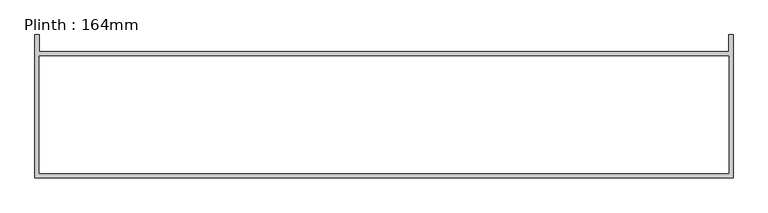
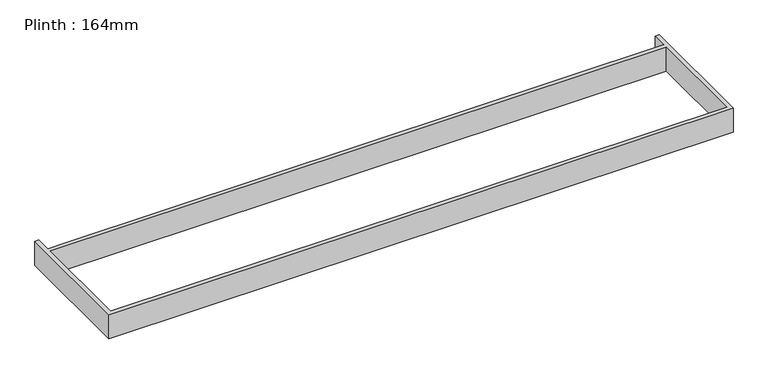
"""IFC4 building model written with IfcOpenShell, lengths in millimetres: furniture geometry, Plinth : 164mm."""

from ifc_helpers import new_model, si_unit, origin, origin_with_axes, place, context, project, spatial, polyline, outline, extrude, source, transform, mapped, element, save


def plinth_164mm_2a3f33c6(model_context):
    return source(origin(), model_context, "Body", "SweptSolid", [
        extrude(outline(polyline([(1274.7003264, -505.0), (-1185.2996736, -505.0), (-1185.2996736, 0.0), (-1169.2996736, 0.0), (-1169.2996736, -60.0), (-1105.2996736, -60.0), (1258.7003264, -60.0), (1258.7003264, 0.0), (1274.7003264, 0.0), (1274.7003264, -505.0)]), holes=[polyline([(1258.7003264, -76.0), (-1169.2996736, -76.0), (-1169.2996736, -489.0), (1258.7003264, -489.0), (1258.7003264, -76.0)])]), origin_with_axes(), (0.0, 0.0, 1.0), 100.0),
    ])


if __name__ == "__main__":
    model = new_model("IFC4")
    model_context = context("Model", 3, world=origin())
    ifc_project = project(units=[si_unit("LENGTHUNIT", "METRE", prefix="MILLI")], contexts=[model_context])
    site = spatial("IfcSite", under=ifc_project)
    building = spatial("IfcBuilding", under=site)
    placement = place(None, origin())
    plinth_164mm_shape = plinth_164mm_2a3f33c6(model_context)
    element("IfcFurniture", 1, ObjectType="Plinth : 164mm", at=placement, inside=building, context=model_context, shape_type="MappedRepresentation", body=[
        mapped(plinth_164mm_shape, transform((0.0, 0.0, 0.0), x_axis=(1.0, 0.0, 0.0), y_axis=(0.0, 1.0, 0.0), z_axis=(0.0, 0.0, 1.0))),
    ])
    save(model, "model.ifc")
